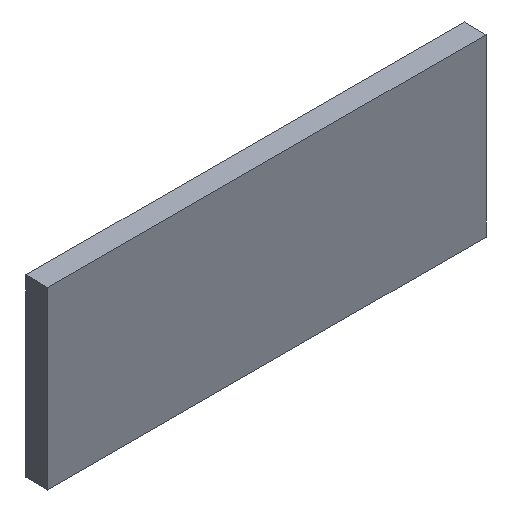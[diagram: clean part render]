
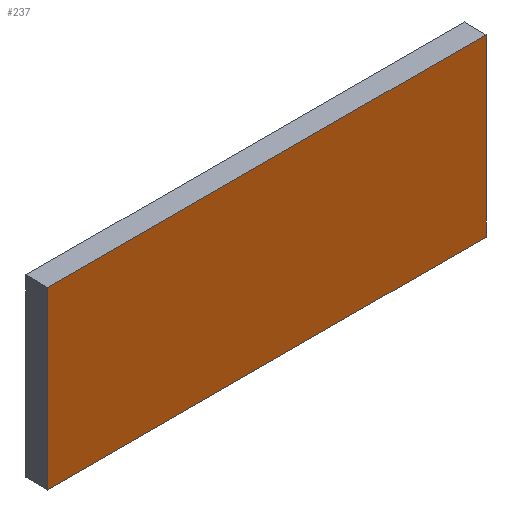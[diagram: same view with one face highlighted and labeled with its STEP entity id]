
A CAD part, isometric view. The second image highlights one B-rep face of the part: STEP entity #237.
In plain terms, the highlighted planar face has unit normal (0, -1, 0).
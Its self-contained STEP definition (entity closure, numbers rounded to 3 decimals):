
#21 = EDGE_CURVE('',#22,#24,#26,.T.);
#22 = VERTEX_POINT('',#23);
#23 = CARTESIAN_POINT('',(-80.,47.8,13.));
#24 = VERTEX_POINT('',#25);
#25 = CARTESIAN_POINT('',(-80.,47.8,77.));
#26 = SURFACE_CURVE('',#27,(#31,#43),.PCURVE_S1.);
#27 = LINE('',#28,#29);
#28 = CARTESIAN_POINT('',(-80.,47.8,13.));
#29 = VECTOR('',#30,1.);
#30 = DIRECTION('',(0.,0.,1.));
#31 = PCURVE('',#32,#37);
#32 = PLANE('',#33);
#33 = AXIS2_PLACEMENT_3D('',#34,#35,#36);
#34 = CARTESIAN_POINT('',(-80.,47.8,13.));
#35 = DIRECTION('',(1.,0.,-0.));
#36 = DIRECTION('',(0.,0.,1.));
#37 = DEFINITIONAL_REPRESENTATION('',(#38),#42);
#38 = LINE('',#39,#40);
#39 = CARTESIAN_POINT('',(0.,0.));
#40 = VECTOR('',#41,1.);
#41 = DIRECTION('',(1.,0.));
#42 = ( GEOMETRIC_REPRESENTATION_CONTEXT(2) 
PARAMETRIC_REPRESENTATION_CONTEXT() REPRESENTATION_CONTEXT('2D SPACE',''
  ) );
#43 = PCURVE('',#44,#49);
#44 = PLANE('',#45);
#45 = AXIS2_PLACEMENT_3D('',#46,#47,#48);
#46 = CARTESIAN_POINT('',(-80.,47.8,13.));
#47 = DIRECTION('',(-0.,1.,0.));
#48 = DIRECTION('',(0.,0.,1.));
#49 = DEFINITIONAL_REPRESENTATION('',(#50),#54);
#50 = LINE('',#51,#52);
#51 = CARTESIAN_POINT('',(0.,0.));
#52 = VECTOR('',#53,1.);
#53 = DIRECTION('',(1.,0.));
#54 = ( GEOMETRIC_REPRESENTATION_CONTEXT(2) 
PARAMETRIC_REPRESENTATION_CONTEXT() REPRESENTATION_CONTEXT('2D SPACE',''
  ) );
#72 = PLANE('',#73);
#73 = AXIS2_PLACEMENT_3D('',#74,#75,#76);
#74 = CARTESIAN_POINT('',(-80.,47.8,13.));
#75 = DIRECTION('',(0.,0.,1.));
#76 = DIRECTION('',(1.,0.,-0.));
#126 = PLANE('',#127);
#127 = AXIS2_PLACEMENT_3D('',#128,#129,#130);
#128 = CARTESIAN_POINT('',(-80.,47.8,77.));
#129 = DIRECTION('',(0.,0.,1.));
#130 = DIRECTION('',(1.,0.,-0.));
#141 = EDGE_CURVE('',#142,#144,#146,.T.);
#142 = VERTEX_POINT('',#143);
#143 = CARTESIAN_POINT('',(80.,47.8,13.));
#144 = VERTEX_POINT('',#145);
#145 = CARTESIAN_POINT('',(80.,47.8,77.));
#146 = SURFACE_CURVE('',#147,(#151,#163),.PCURVE_S1.);
#147 = LINE('',#148,#149);
#148 = CARTESIAN_POINT('',(80.,47.8,13.));
#149 = VECTOR('',#150,1.);
#150 = DIRECTION('',(0.,0.,1.));
#151 = PCURVE('',#152,#157);
#152 = PLANE('',#153);
#153 = AXIS2_PLACEMENT_3D('',#154,#155,#156);
#154 = CARTESIAN_POINT('',(80.,47.8,13.));
#155 = DIRECTION('',(1.,0.,-0.));
#156 = DIRECTION('',(0.,0.,1.));
#157 = DEFINITIONAL_REPRESENTATION('',(#158),#162);
#158 = LINE('',#159,#160);
#159 = CARTESIAN_POINT('',(0.,0.));
#160 = VECTOR('',#161,1.);
#161 = DIRECTION('',(1.,0.));
#162 = ( GEOMETRIC_REPRESENTATION_CONTEXT(2) 
PARAMETRIC_REPRESENTATION_CONTEXT() REPRESENTATION_CONTEXT('2D SPACE',''
  ) );
#163 = PCURVE('',#44,#164);
#164 = DEFINITIONAL_REPRESENTATION('',(#165),#169);
#165 = LINE('',#166,#167);
#166 = CARTESIAN_POINT('',(0.,160.));
#167 = VECTOR('',#168,1.);
#168 = DIRECTION('',(1.,0.));
#169 = ( GEOMETRIC_REPRESENTATION_CONTEXT(2) 
PARAMETRIC_REPRESENTATION_CONTEXT() REPRESENTATION_CONTEXT('2D SPACE',''
  ) );
#237 = ADVANCED_FACE('',(#238),#44,.F.);
#238 = FACE_BOUND('',#239,.F.);
#239 = EDGE_LOOP('',(#240,#261,#262,#283));
#240 = ORIENTED_EDGE('',*,*,#241,.F.);
#241 = EDGE_CURVE('',#22,#142,#242,.T.);
#242 = SURFACE_CURVE('',#243,(#247,#254),.PCURVE_S1.);
#243 = LINE('',#244,#245);
#244 = CARTESIAN_POINT('',(-80.,47.8,13.));
#245 = VECTOR('',#246,1.);
#246 = DIRECTION('',(1.,0.,-0.));
#247 = PCURVE('',#44,#248);
#248 = DEFINITIONAL_REPRESENTATION('',(#249),#253);
#249 = LINE('',#250,#251);
#250 = CARTESIAN_POINT('',(0.,0.));
#251 = VECTOR('',#252,1.);
#252 = DIRECTION('',(0.,1.));
#253 = ( GEOMETRIC_REPRESENTATION_CONTEXT(2) 
PARAMETRIC_REPRESENTATION_CONTEXT() REPRESENTATION_CONTEXT('2D SPACE',''
  ) );
#254 = PCURVE('',#72,#255);
#255 = DEFINITIONAL_REPRESENTATION('',(#256),#260);
#256 = LINE('',#257,#258);
#257 = CARTESIAN_POINT('',(0.,0.));
#258 = VECTOR('',#259,1.);
#259 = DIRECTION('',(1.,0.));
#260 = ( GEOMETRIC_REPRESENTATION_CONTEXT(2) 
PARAMETRIC_REPRESENTATION_CONTEXT() REPRESENTATION_CONTEXT('2D SPACE',''
  ) );
#261 = ORIENTED_EDGE('',*,*,#21,.T.);
#262 = ORIENTED_EDGE('',*,*,#263,.T.);
#263 = EDGE_CURVE('',#24,#144,#264,.T.);
#264 = SURFACE_CURVE('',#265,(#269,#276),.PCURVE_S1.);
#265 = LINE('',#266,#267);
#266 = CARTESIAN_POINT('',(-80.,47.8,77.));
#267 = VECTOR('',#268,1.);
#268 = DIRECTION('',(1.,0.,-0.));
#269 = PCURVE('',#44,#270);
#270 = DEFINITIONAL_REPRESENTATION('',(#271),#275);
#271 = LINE('',#272,#273);
#272 = CARTESIAN_POINT('',(64.,0.));
#273 = VECTOR('',#274,1.);
#274 = DIRECTION('',(0.,1.));
#275 = ( GEOMETRIC_REPRESENTATION_CONTEXT(2) 
PARAMETRIC_REPRESENTATION_CONTEXT() REPRESENTATION_CONTEXT('2D SPACE',''
  ) );
#276 = PCURVE('',#126,#277);
#277 = DEFINITIONAL_REPRESENTATION('',(#278),#282);
#278 = LINE('',#279,#280);
#279 = CARTESIAN_POINT('',(0.,0.));
#280 = VECTOR('',#281,1.);
#281 = DIRECTION('',(1.,0.));
#282 = ( GEOMETRIC_REPRESENTATION_CONTEXT(2) 
PARAMETRIC_REPRESENTATION_CONTEXT() REPRESENTATION_CONTEXT('2D SPACE',''
  ) );
#283 = ORIENTED_EDGE('',*,*,#141,.F.);
